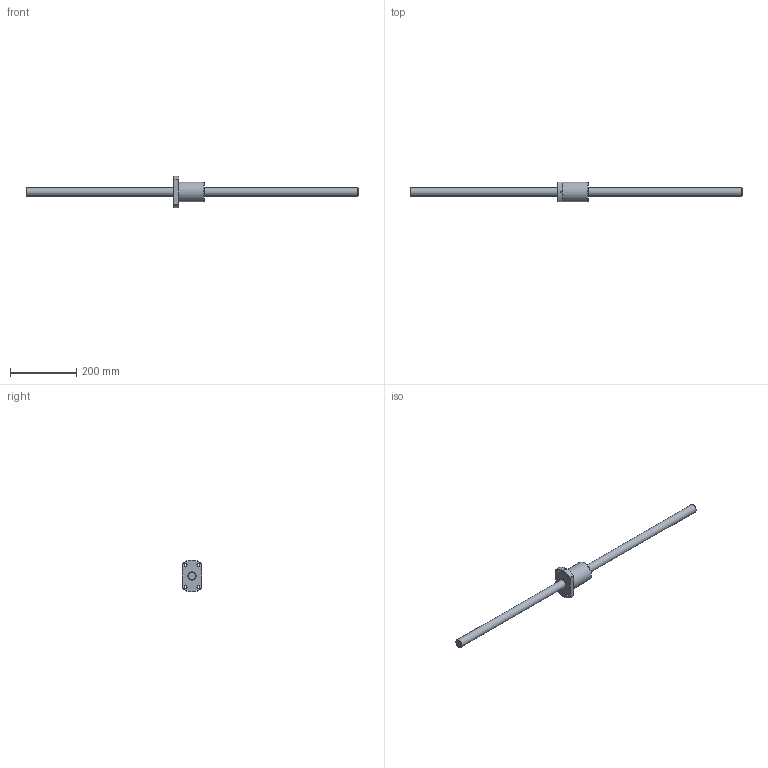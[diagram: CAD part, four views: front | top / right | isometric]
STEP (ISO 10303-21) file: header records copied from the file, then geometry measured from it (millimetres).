
FILE_DESCRIPTION((''),'2;1');
FILE_NAME('D:\製品 (図面)\カタログ用3D\ネジ関連\STEP形式\RBSMA\RBSMA2510-1000.stp','2010-06-02T14:44:01',('Tsuchiya'),(''),'Autodesk Inventor 10','Autodesk Inventor 10','');
FILE_SCHEMA(('AUTOMOTIVE_DESIGN { 1 0 10303 214 1 1 1 1 }'));
Length unit declared in the file: millimetre
Products named in the file (3): RBSMA2510-1000; RBSMA2510-10001; RBSMA2510-10002
Assembly tree (2 placements, depth 2):
  RBSMA2510-1000
    RBSMA2510-10001
    RBSMA2510-10002
Bounding box: 1000 x 60 x 96 mm (x, y, z)
Volume: 739189.8 mm3; surface area: 116662.6 mm2
Topology: 2 solids, 2 shells, 25 faces, 63 edges, 42 vertices
Faces by surface type: cylinder 9, plane 8, cone 7, bspline 1
Full cylindrical faces by diameter (mm): 9 x4, 25 x2, 60 x1
Entity records: 885 total; most frequent: CARTESIAN_POINT 270, DIRECTION 120, ORIENTED_EDGE 94, AXIS2_PLACEMENT_3D 55, EDGE_LOOP 48, EDGE_CURVE 47, VERTEX_POINT 37, CIRCLE 26
